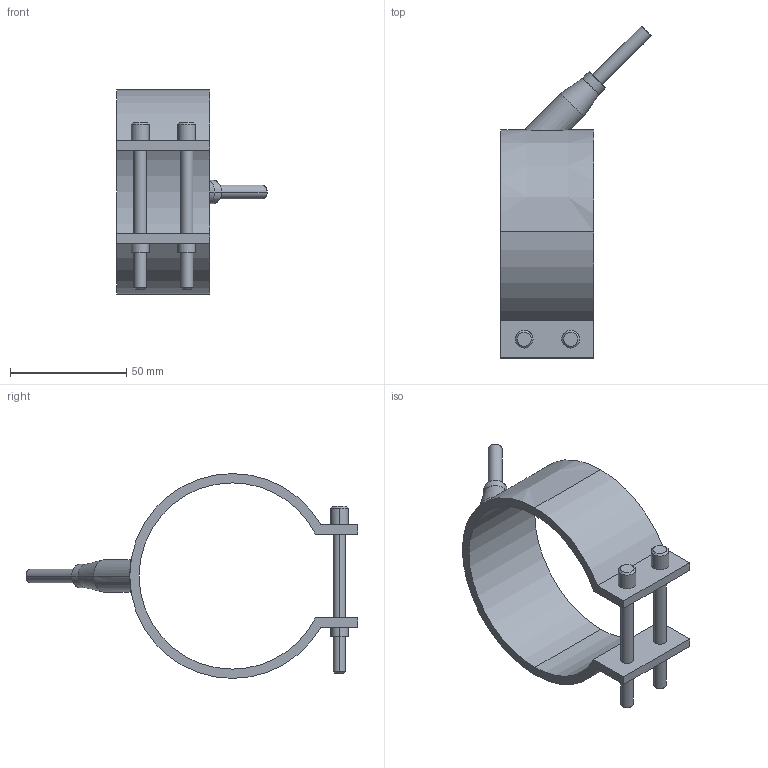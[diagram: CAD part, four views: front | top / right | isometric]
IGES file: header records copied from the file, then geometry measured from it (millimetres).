
Start section: START RECORD GO HERE.
Global section: file name: 29080040.igs; native system: DASSAULT SYSTEMES CATIA V5 R20 - www.3ds.com; preprocessor: CATIA Version 5 Release 20 ; author: Utente; organization: NB04-ASUS; date: 20210329.200922; units: millimetre
Bounding box: 64.55 x 142.55 x 88 mm (x, y, z)
Surface area: 26721.9 mm2 (no closed solid volume)
Topology: 0 solids, 0 shells, 54 faces, 246 edges, 246 vertices
Faces by surface type: revolution 38, plane 16
